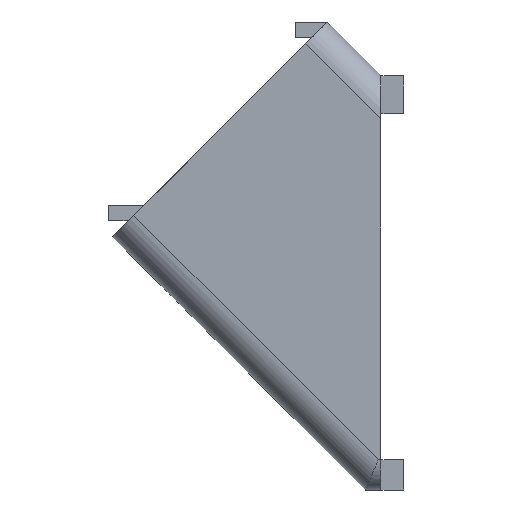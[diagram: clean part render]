
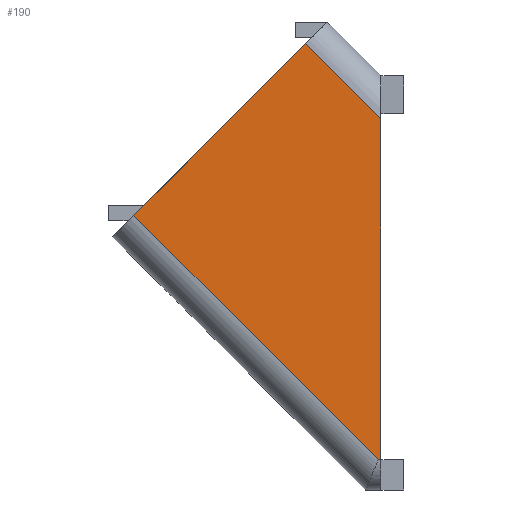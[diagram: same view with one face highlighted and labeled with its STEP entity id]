
A CAD part, left-side view. The second image highlights one B-rep face of the part: STEP entity #190.
In plain terms, the highlighted planar face has unit normal (-1, 0, 0).
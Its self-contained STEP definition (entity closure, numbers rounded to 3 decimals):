
#190 = ADVANCED_FACE( '', ( #397 ), #398, .F. );
#397 = FACE_OUTER_BOUND( '', #681, .T. );
#398 = PLANE( '', #682 );
#681 = EDGE_LOOP( '', ( #1230, #1231, #1232, #1233, #1234 ) );
#682 = AXIS2_PLACEMENT_3D( '', #1235, #1236, #1237 );
#1230 = ORIENTED_EDGE( '', *, *, #1392, .F. );
#1231 = ORIENTED_EDGE( '', *, *, #1584, .T. );
#1232 = ORIENTED_EDGE( '', *, *, #1483, .F. );
#1233 = ORIENTED_EDGE( '', *, *, #1585, .T. );
#1234 = ORIENTED_EDGE( '', *, *, #1586, .T. );
#1235 = CARTESIAN_POINT( '', ( -10., 0., 0. ) );
#1236 = DIRECTION( '', ( 1., 0., 0. ) );
#1237 = DIRECTION( '', ( 0., 0., -1. ) );
#1392 = EDGE_CURVE( '', #1671, #1673, #1674, .T. );
#1483 = EDGE_CURVE( '', #1820, #1822, #1823, .T. );
#1584 = EDGE_CURVE( '', #1671, #1822, #1957, .F. );
#1585 = EDGE_CURVE( '', #1820, #1958, #1959, .F. );
#1586 = EDGE_CURVE( '', #1958, #1673, #1960, .F. );
#1671 = VERTEX_POINT( '', #2069 );
#1673 = VERTEX_POINT( '', #2071 );
#1674 = LINE( '', #2072, #2073 );
#1820 = VERTEX_POINT( '', #2333 );
#1822 = VERTEX_POINT( '', #2335 );
#1823 = LINE( '', #2336, #2337 );
#1957 = LINE( '', #2558, #2559 );
#1958 = VERTEX_POINT( '', #2560 );
#1959 = LINE( '', #2561, #2562 );
#1960 = LINE( '', #2563, #2564 );
#2069 = CARTESIAN_POINT( '', ( -10., 0., -2.828 ) );
#2071 = CARTESIAN_POINT( '', ( -10., 0., -25.28 ) );
#2072 = CARTESIAN_POINT( '', ( -10., 0., 0. ) );
#2073 = VECTOR( '', #2636, 1000. );
#2333 = CARTESIAN_POINT( '', ( -10., 16.266, -9.186 ) );
#2335 = CARTESIAN_POINT( '', ( -10., 4.954, 2.126 ) );
#2336 = CARTESIAN_POINT( '', ( -10., 17.68, -10.6 ) );
#2337 = VECTOR( '', #2738, 1000. );
#2558 = CARTESIAN_POINT( '', ( -10., 1.414, -1.414 ) );
#2559 = VECTOR( '', #2818, 1000. );
#2560 = CARTESIAN_POINT( '', ( -10., 0.172, -25.28 ) );
#2561 = CARTESIAN_POINT( '', ( -10., 12.726, -12.726 ) );
#2562 = VECTOR( '', #2819, 1000. );
#2563 = CARTESIAN_POINT( '', ( -10., 0., -25.28 ) );
#2564 = VECTOR( '', #2820, 1000. );
#2636 = DIRECTION( '', ( 0., 0., -1. ) );
#2738 = DIRECTION( '', ( 0., -0.707, 0.707 ) );
#2818 = DIRECTION( '', ( 0., -0.707, -0.707 ) );
#2819 = DIRECTION( '', ( 0., 0.707, 0.707 ) );
#2820 = DIRECTION( '', ( 0., 1., 0. ) );
